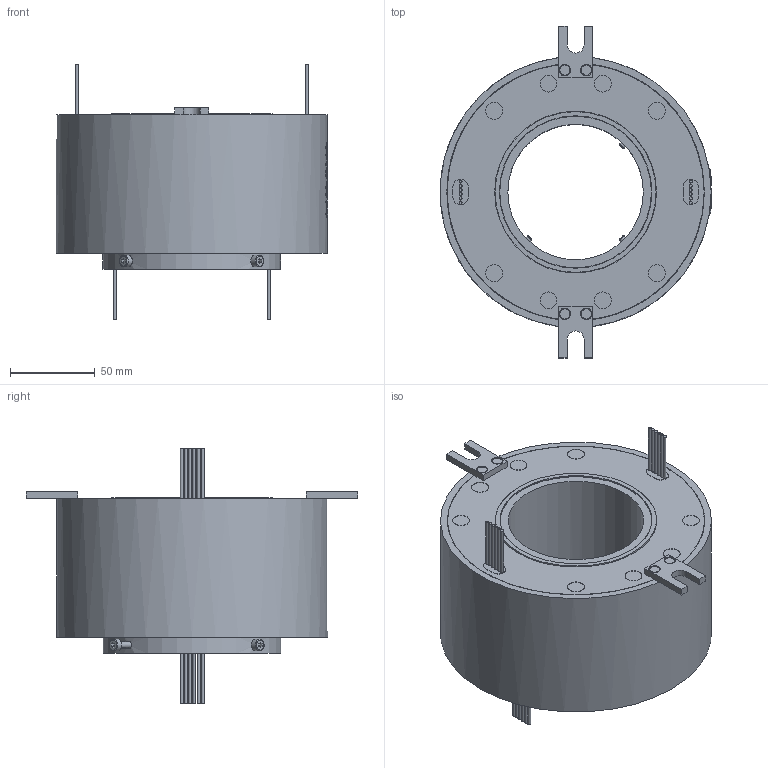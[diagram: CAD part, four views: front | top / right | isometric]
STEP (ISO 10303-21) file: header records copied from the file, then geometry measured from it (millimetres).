
FILE_DESCRIPTION(/* description */ (''),/* implementation_level */ '2;1');
FILE_NAME(/* name */ 'HD80158-1210-3D模型.stp',/* time_stamp */ '2025-09-04T16:21:08+08:00',/* author */ (''),/* organization */ (''),/* preprocessor_version */ 'ST-DEVELOPER v16.7',/* originating_system */ 'SIEMENS PLM Software NX 12.0',/* authorisation */ '');
FILE_SCHEMA (('AUTOMOTIVE_DESIGN { 1 0 10303 214 3 1 1 1 }'));
Length unit declared in the file: millimetre
Products named in the file (1): Admi8ABC6E1720sx
Bounding box: 160.47 x 196 x 151.1 mm (x, y, z)
Volume: 1277253.4 mm3; surface area: 108158.8 mm2
Topology: 1 solids, 5 shells, 801 faces, 2061 edges, 1369 vertices
Faces by surface type: plane 346, extrusion 313, cylinder 95, bspline 30, cone 13, torus 4
Full cylindrical faces by diameter (mm): 1.8 x24, 3 x4, 3.4 x1, 3.5 x4, 4 x7, 6 x4, 7 x4, 10 x8, 80 x1, 89.5 x1, 90 x1, 95 x1, 95.5 x1, 105 x1, 105.5 x1, 151.8 x2, 152 x2, 160 x1
Entity records: 29843 total; most frequent: CARTESIAN_POINT 13139, ORIENTED_EDGE 3908, DIRECTION 2189, EDGE_CURVE 1954, B_SPLINE_CURVE_WITH_KNOTS 1644, VERTEX_POINT 1347, EDGE_LOOP 999, ADVANCED_FACE 801
